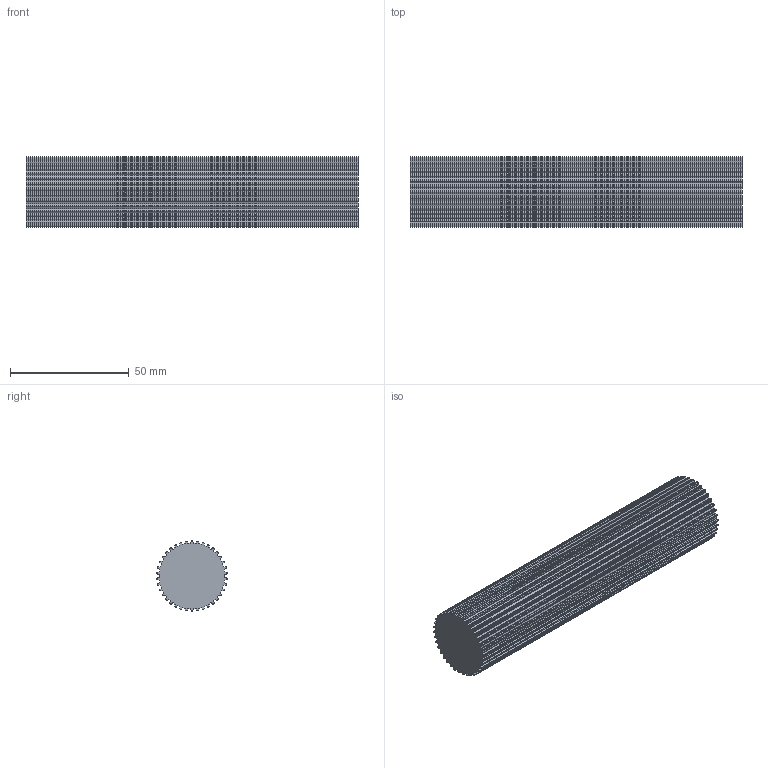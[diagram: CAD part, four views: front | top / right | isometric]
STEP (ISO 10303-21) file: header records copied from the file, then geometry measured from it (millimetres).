
FILE_DESCRIPTION( ( 'STEP AP214' ), '1' );
FILE_NAME( 'C:/Users/StangenbergN/Documents/CAD_Step/1/16093800.stp', '2019-07-25T19:42:06', ( '' ), ( '' ), ' ', 'PARTsolutions', ' ' );
FILE_SCHEMA( ( 'AUTOMOTIVE_DESIGN { 1 0 10303 214 1 1 1 1 }' ) );
Length unit declared in the file: millimetre
Products named in the file (1): _16093800
Bounding box: 140 x 29.65 x 29.74 mm (x, y, z)
Volume: 89371.1 mm3; surface area: 20523.9 mm2
Topology: 1 solids, 1 shells, 306 faces, 912 edges, 608 vertices
Faces by surface type: cylinder 190, plane 116
Entity records: 12900 total; most frequent: DIRECTION 1906, CARTESIAN_POINT 1827, ORIENTED_EDGE 1824, EDGE_CURVE 912, AXIS2_PLACEMENT_3D 687, VERTEX_POINT 608, LINE 532, VECTOR 532
